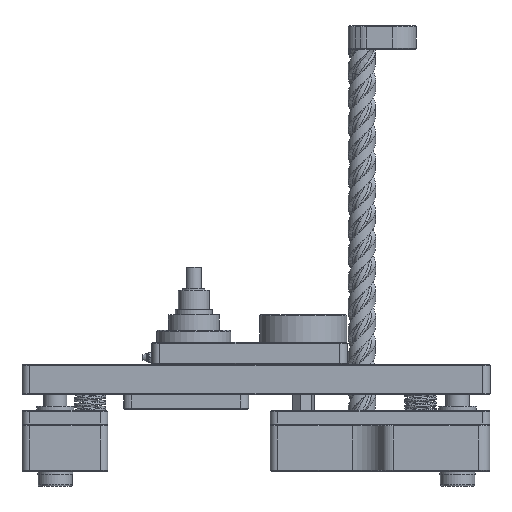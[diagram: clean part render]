
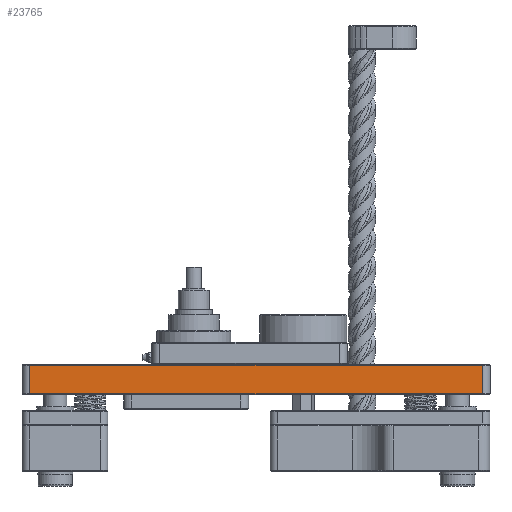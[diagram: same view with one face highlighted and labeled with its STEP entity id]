
A CAD part, front view. The second image highlights one B-rep face of the part: STEP entity #23765.
In plain terms, the highlighted planar face has unit normal (0, -1, 0).
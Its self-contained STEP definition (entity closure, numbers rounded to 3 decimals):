
#983=LINE('',#32312,#1967);
#1001=LINE('',#32437,#1985);
#1002=LINE('',#32439,#1986);
#1003=LINE('',#32441,#1987);
#1967=VECTOR('',#27218,1000.);
#1985=VECTOR('',#27348,1000.);
#1986=VECTOR('',#27351,1000.);
#1987=VECTOR('',#27352,1000.);
#2952=PLANE('',#25108);
#3614=ORIENTED_EDGE('',*,*,#8277,.F.);
#3615=ORIENTED_EDGE('',*,*,#8278,.T.);
#3616=ORIENTED_EDGE('',*,*,#8279,.T.);
#3617=ORIENTED_EDGE('',*,*,#8222,.F.);
#8222=EDGE_CURVE('',#10585,#10586,#983,.T.);
#8277=EDGE_CURVE('',#10637,#10585,#1001,.T.);
#8278=EDGE_CURVE('',#10637,#10638,#1002,.T.);
#8279=EDGE_CURVE('',#10638,#10586,#1003,.T.);
#10585=VERTEX_POINT('',#32307);
#10586=VERTEX_POINT('',#32311);
#10637=VERTEX_POINT('',#32436);
#10638=VERTEX_POINT('',#32440);
#13374=EDGE_LOOP('',(#3614,#3615,#3616,#3617));
#15242=FACE_BOUND('',#13374,.T.);
#23765=ADVANCED_FACE('',(#15242),#2952,.F.);
#25108=AXIS2_PLACEMENT_3D('',#32438,#27349,#27350);
#27218=DIRECTION('',(-1.,0.,0.));
#27348=DIRECTION('',(0.,0.,-1.));
#27349=DIRECTION('',(0.,1.,0.));
#27350=DIRECTION('',(0.,0.,1.));
#27351=DIRECTION('',(-1.,0.,0.));
#27352=DIRECTION('',(0.,0.,-1.));
#32307=CARTESIAN_POINT('',(234.315,-39.688,0.794));
#32311=CARTESIAN_POINT('',(-133.35,-39.688,0.794));
#32312=CARTESIAN_POINT('',(-131.445,-39.688,0.794));
#32436=CARTESIAN_POINT('',(234.315,-39.688,23.876));
#32437=CARTESIAN_POINT('',(234.315,-39.688,24.638));
#32438=CARTESIAN_POINT('',(-131.445,-39.688,24.638));
#32439=CARTESIAN_POINT('',(-133.35,-39.688,23.876));
#32440=CARTESIAN_POINT('',(-133.35,-39.688,23.876));
#32441=CARTESIAN_POINT('',(-133.35,-39.688,24.638));
